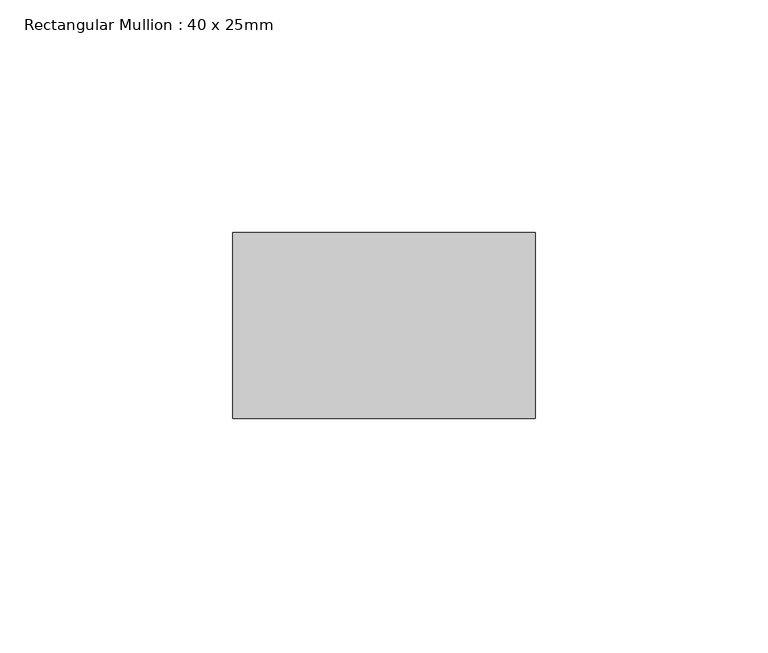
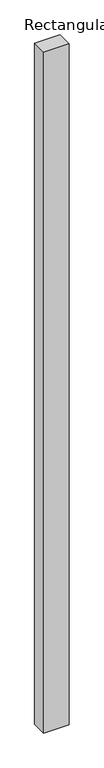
"""IFC4 building model written with IfcOpenShell, lengths in millimetres: member geometry, Rectangular Mullion : 40 x 25mm."""

import ifcopenshell
import ifcopenshell.guid

model = None  # the IFC model being written
_history = None  # IfcOwnerHistory: only IFC2X3 demands one
_inside = {}  # id of a spatial element -> (the spatial element, [elements in it])
_under = {}  # id of a project, library or spatial element -> (it, [spatial elements below it])
_declared = {}  # id of a project -> (the project, [libraries it declares])
_typed = {}  # id of a type object -> (the type object, [elements of that type])
_made_of = {}  # id of a material, layer set ... -> (it, [elements and type objects made of it])


def new_model(schema):
    """Start an empty IFC model of exactly this schema.

    Asked for "IFC4X3", IfcOpenShell would pick the latest addendum, in which some entities
    have other attributes; the version numbers below select the first issue.
    IFC2X3 requires an IfcOwnerHistory on every rooted entity: one is made here for all.
    """
    global model, _history
    if schema == "IFC4X3":
        model = ifcopenshell.file(schema_version=(4, 3, 0, 0))
    else:
        model = ifcopenshell.file(schema=schema)
    _inside.clear()
    _under.clear()
    _declared.clear()
    _typed.clear()
    _made_of.clear()
    _history = None
    if model.schema == "IFC2X3":
        org = make("IfcOrganization", Name="unknown")
        user = make(
            "IfcPersonAndOrganization",
            ThePerson=make("IfcPerson", FamilyName="unknown"),
            TheOrganization=org,
        )
        app = make(
            "IfcApplication",
            ApplicationDeveloper=org,
            Version="unknown",
            ApplicationFullName="unknown",
            ApplicationIdentifier="unknown",
        )
        _history = make(
            "IfcOwnerHistory",
            OwningUser=user,
            OwningApplication=app,
            ChangeAction="ADDED",
            CreationDate=0,
        )
    return model


def make(cls, **values):
    """One entity of the class cls with the attributes given. An attribute that is None is left unset."""
    return model.create_entity(
        cls, **{name: value for name, value in values.items() if value is not None}
    )


def rooted(cls, **values):
    """An entity with a GlobalId (a new one), such as an element, a storey or a relation."""
    return make(cls, GlobalId=ifcopenshell.guid.new(), OwnerHistory=_history, **values)


def si_unit(unit_type, name, prefix=None):
    """IfcSIUnit, for example si_unit("LENGTHUNIT", "METRE", prefix="MILLI")."""
    return make("IfcSIUnit", UnitType=unit_type, Prefix=prefix, Name=name)


def assignment(units):
    """IfcUnitAssignment: the units of a project."""
    return None if units is None else make("IfcUnitAssignment", Units=units)


def point(xyz):
    """IfcCartesianPoint."""
    return None if xyz is None else make("IfcCartesianPoint", Coordinates=xyz)


def direction(xyz):
    """IfcDirection."""
    return None if xyz is None else make("IfcDirection", DirectionRatios=xyz)


def frame(location, z_axis=None, x_axis=None):
    """IfcAxis2Placement3D, a coordinate frame: its origin and axes. An axis left out is left unset."""
    return make(
        "IfcAxis2Placement3D",
        Location=point(location),
        Axis=direction(z_axis),
        RefDirection=direction(x_axis),
    )


def origin():
    """The frame at (0, 0, 0) with its axes left unset."""
    return frame((0.0, 0.0, 0.0))


def place(relative_to, where):
    """IfcLocalPlacement: puts the frame where relative to a parent placement (None: the world)."""
    return make(
        "IfcLocalPlacement", PlacementRelTo=relative_to, RelativePlacement=where
    )


def context(
    kind, dimensions, precision=None, world=None, true_north=None, identifier=None
):
    """IfcGeometricRepresentationContext, for example the 3D "Model" context."""
    return make(
        "IfcGeometricRepresentationContext",
        ContextIdentifier=identifier,
        ContextType=kind,
        CoordinateSpaceDimension=dimensions,
        Precision=precision,
        WorldCoordinateSystem=world,
        TrueNorth=true_north,
    )


def project(units=None, contexts=None):
    """IfcProject with its units and contexts."""
    return rooted(
        "IfcProject",
        Name="project",
        RepresentationContexts=contexts,
        UnitsInContext=assignment(units),
    )


def spatial(cls, under=None, at=None, **own):
    """A site, building, storey or space (cls), placed at a placement, below another one or the project."""
    s = rooted(cls, ObjectPlacement=at, **own)
    if under is not None:
        _under.setdefault(under.id(), (under, []))[1].append(s)
    return s


def polyline(points):
    """IfcPolyline through the points."""
    return make("IfcPolyline", Points=[point(p) for p in points])


def outline(outer, holes=None, kind="AREA"):
    """IfcArbitraryClosedProfileDef: a profile drawn as a closed curve; with holes, ...WithVoids."""
    if holes is None:
        return make("IfcArbitraryClosedProfileDef", ProfileType=kind, OuterCurve=outer)
    return make(
        "IfcArbitraryProfileDefWithVoids",
        ProfileType=kind,
        OuterCurve=outer,
        InnerCurves=holes,
    )


def extrude(swept, where, along, depth):
    """IfcExtrudedAreaSolid: the profile swept, set in the frame where, extruded along a direction by depth."""
    return make(
        "IfcExtrudedAreaSolid",
        SweptArea=swept,
        Position=where,
        ExtrudedDirection=direction(along),
        Depth=depth,
    )


def shape(context_of_items, identifier, shape_type, items):
    """IfcShapeRepresentation: the items that make up one representation, for example the "Body"."""
    return make(
        "IfcShapeRepresentation",
        ContextOfItems=context_of_items,
        RepresentationIdentifier=identifier,
        RepresentationType=shape_type,
        Items=items,
    )


def source(mapping_origin, context_of_items, identifier, shape_type, items):
    """IfcRepresentationMap: a shape defined once, which mapped items show again and again."""
    return make(
        "IfcRepresentationMap",
        MappingOrigin=mapping_origin,
        MappedRepresentation=shape(context_of_items, identifier, shape_type, items),
    )


def transform(
    local_origin,
    x_axis=None,
    y_axis=None,
    z_axis=None,
    scale=None,
    scale2=None,
    scale3=None,
    uniform=True,
):
    """IfcCartesianTransformationOperator3D, or its non-uniform kind. x_axis, y_axis, z_axis: its Axis1, 2, 3."""
    if uniform:
        return make(
            "IfcCartesianTransformationOperator3D",
            Axis1=direction(x_axis),
            Axis2=direction(y_axis),
            LocalOrigin=point(local_origin),
            Scale=scale,
            Axis3=direction(z_axis),
        )
    return make(
        "IfcCartesianTransformationOperator3DnonUniform",
        Axis1=direction(x_axis),
        Axis2=direction(y_axis),
        LocalOrigin=point(local_origin),
        Scale=scale,
        Axis3=direction(z_axis),
        Scale2=scale2,
        Scale3=scale3,
    )


def mapped(mapping_source, mapping_target):
    """IfcMappedItem: shows the shape of a source again, moved by a transform."""
    return make(
        "IfcMappedItem", MappingSource=mapping_source, MappingTarget=mapping_target
    )


def made_of(thing, what):
    """Note that an element or type object is made of a material, layer set ...; save() writes the relation."""
    if what is not None:
        _made_of.setdefault(what.id(), (what, []))[1].append(thing)
    return thing


def element(
    cls,
    number,
    at=None,
    inside=None,
    cuts=None,
    type_object=None,
    material=None,
    context=None,
    identifier="Body",
    shape_type=None,
    held_by="IfcProductDefinitionShape",
    body=None,
    shapes=None,
    **own,
):
    """One element of the class cls, such as IfcWall. Its Tag is "e" and its number.

    at: its placement. inside: the storey or other place that contains it. cuts: it is an
    opening in that element (IfcRelVoidsElement). A single representation is given by context,
    identifier, shape_type and body (its items); several are given by shapes. held_by: the class
    of the entity that holds the representations. save() writes the other relations.
    """
    e = rooted(cls, Tag="e%d" % number, ObjectPlacement=at, **own)
    if body is not None:
        shapes = [shape(context, identifier, shape_type, body)]
    if shapes is not None:
        e.Representation = make(held_by, Representations=shapes)
    if inside is not None:
        _inside.setdefault(inside.id(), (inside, []))[1].append(e)
    if cuts is not None:
        rooted(
            "IfcRelVoidsElement", RelatingBuildingElement=cuts, RelatedOpeningElement=e
        )
    if type_object is not None:
        _typed.setdefault(type_object.id(), (type_object, []))[1].append(e)
    return made_of(e, material)


def aggregate(whole, parts):
    """IfcRelAggregates: a whole, such as a stair, and the parts it consists of."""
    return rooted("IfcRelAggregates", RelatingObject=whole, RelatedObjects=parts)


def save(model, path):
    """Write the relations noted so far, then the file.

    IfcRelAggregates (storeys below a building ...), IfcRelContainedInSpatialStructure (elements
    in a storey), IfcRelDefinesByType, IfcRelAssociatesMaterial and IfcRelDeclares: one each for
    every whole, place, type object, material and project.
    """
    for whole, parts in _under.values():
        aggregate(whole, parts)
    for where, things in _inside.values():
        rooted(
            "IfcRelContainedInSpatialStructure",
            RelatedElements=things,
            RelatingStructure=where,
        )
    for kind, things in _typed.values():
        rooted("IfcRelDefinesByType", RelatedObjects=things, RelatingType=kind)
    for what, things in _made_of.values():
        rooted("IfcRelAssociatesMaterial", RelatedObjects=things, RelatingMaterial=what)
    for by, libraries in _declared.values():
        rooted("IfcRelDeclares", RelatingContext=by, RelatedDefinitions=libraries)
    model.write(path)


def rectangular_mullion_40_x_25mm_cc4b7b29(model_context):
    return source(origin(), model_context, "Body", "SweptSolid", [
        extrude(outline(polyline([(0.0, -20.0), (0.0, -60.0), (-65.0, -60.0), (-65.0, -20.0), (0.0, -20.0)])), frame((0.0, 0.0, -1834.3453578), z_axis=(0.0, 0.0, 1.0), x_axis=(1.0, 0.0, 0.0)), (0.0, 0.0, 1.0), 1834.3453578),
    ])


if __name__ == "__main__":
    model = new_model("IFC4")
    model_context = context("Model", 3, world=origin())
    ifc_project = project(units=[si_unit("LENGTHUNIT", "METRE", prefix="MILLI")], contexts=[model_context])
    site = spatial("IfcSite", under=ifc_project)
    building = spatial("IfcBuilding", under=site)
    placement = place(None, origin())
    rectangular_mullion_40_x_25mm_shape = rectangular_mullion_40_x_25mm_cc4b7b29(model_context)
    element("IfcMember", 1, ObjectType="Rectangular Mullion : 40 x 25mm", at=placement, inside=building, context=model_context, shape_type="MappedRepresentation", body=[
        mapped(rectangular_mullion_40_x_25mm_shape, transform((0.0, 0.0, 0.0), x_axis=(1.0, 0.0, 0.0), y_axis=(0.0, 1.0, 0.0), z_axis=(0.0, 0.0, 1.0))),
    ])
    save(model, "model.ifc")
